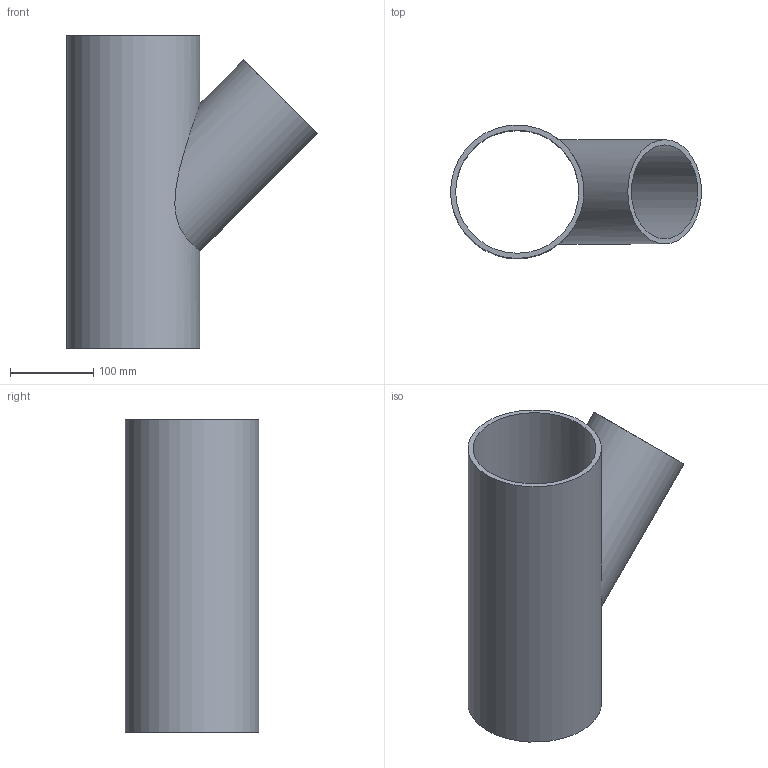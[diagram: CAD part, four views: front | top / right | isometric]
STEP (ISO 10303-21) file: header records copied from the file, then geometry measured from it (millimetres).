
FILE_DESCRIPTION(/* description */ (''),/* implementation_level */ '2;1');
FILE_NAME(/* name */ 'C:\Planerdaten\Export PLA\PRO_101557\stp\369139.stp',/* time_stamp */ '2021-09-30T15:08:08+02:00',/* author */ ('JANAN'),/* organization */ (''),/* preprocessor_version */ 'ST-DEVELOPER v16.13',/* originating_system */ 'Autodesk Inventor 2018',/* authorisation */ '');
FILE_SCHEMA (('AUTOMOTIVE_DESIGN { 1 0 10303 214 3 1 1 }'));
Length unit declared in the file: millimetre
Products named in the file (1): tmp415F.tmp
Bounding box: 300.97 x 160 x 375 mm (x, y, z)
Volume: 1385403.8 mm3; surface area: 455356.9 mm2
Topology: 1 solids, 1 shells, 7 faces, 17 edges, 12 vertices
Faces by surface type: cylinder 4, plane 3
Full cylindrical faces by diameter (mm): 112.6 x1, 125 x1, 147.6 x1, 160 x1
Entity records: 368 total; most frequent: CARTESIAN_POINT 190, DIRECTION 28, EDGE_LOOP 16, ORIENTED_EDGE 16, AXIS2_PLACEMENT_3D 14, FACE_BOUND 9, VERTEX_POINT 8, EDGE_CURVE 8
